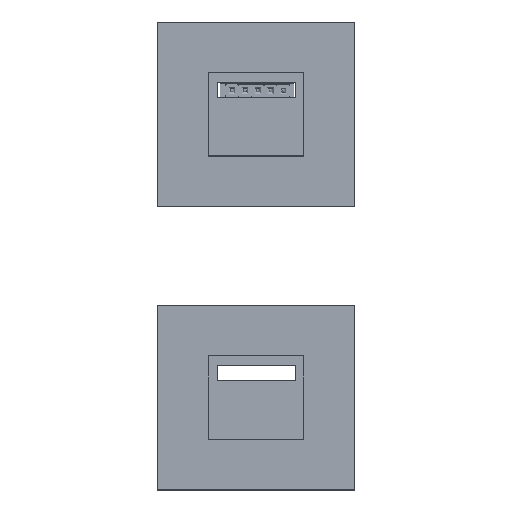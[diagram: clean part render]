
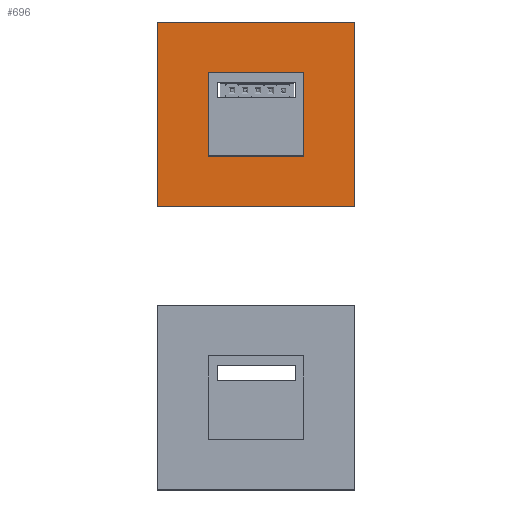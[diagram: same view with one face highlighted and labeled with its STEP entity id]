
A CAD part, top view. The second image highlights one B-rep face of the part: STEP entity #696.
In plain terms, the highlighted planar face has unit normal (0, 0, 1).
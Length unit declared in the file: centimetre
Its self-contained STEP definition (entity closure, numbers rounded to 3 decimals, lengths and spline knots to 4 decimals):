
#84=ORIENTED_EDGE('',*,*,#221,.T.);
#85=ORIENTED_EDGE('',*,*,#243,.T.);
#86=ORIENTED_EDGE('',*,*,#208,.T.);
#87=ORIENTED_EDGE('',*,*,#204,.T.);
#88=ORIENTED_EDGE('',*,*,#244,.F.);
#89=ORIENTED_EDGE('',*,*,#245,.F.);
#90=ORIENTED_EDGE('',*,*,#246,.F.);
#91=ORIENTED_EDGE('',*,*,#247,.F.);
#204=EDGE_CURVE('',#300,#301,#364,.T.);
#208=EDGE_CURVE('',#304,#300,#368,.T.);
#221=EDGE_CURVE('',#301,#315,#381,.T.);
#243=EDGE_CURVE('',#315,#304,#403,.T.);
#244=EDGE_CURVE('',#328,#329,#404,.T.);
#245=EDGE_CURVE('',#330,#328,#405,.T.);
#246=EDGE_CURVE('',#331,#330,#406,.T.);
#247=EDGE_CURVE('',#329,#331,#407,.T.);
#300=VERTEX_POINT('',#1481);
#301=VERTEX_POINT('',#1482);
#304=VERTEX_POINT('',#1490);
#315=VERTEX_POINT('',#1517);
#328=VERTEX_POINT('',#1563);
#329=VERTEX_POINT('',#1564);
#330=VERTEX_POINT('',#1566);
#331=VERTEX_POINT('',#1568);
#364=LINE('',#1480,#460);
#368=LINE('',#1489,#464);
#381=LINE('',#1516,#477);
#403=LINE('',#1558,#499);
#404=LINE('',#1562,#500);
#405=LINE('',#1565,#501);
#406=LINE('',#1567,#502);
#407=LINE('',#1569,#503);
#460=VECTOR('',#1259,100.);
#464=VECTOR('',#1265,100.);
#477=VECTOR('',#1284,100.);
#499=VECTOR('',#1320,100.);
#500=VECTOR('',#1327,100.);
#501=VECTOR('',#1328,100.);
#502=VECTOR('',#1329,100.);
#503=VECTOR('',#1330,100.);
#572=EDGE_LOOP('',(#84,#85,#86,#87));
#573=EDGE_LOOP('',(#88,#89,#90,#91));
#616=FACE_BOUND('',#572,.T.);
#617=FACE_BOUND('',#573,.T.);
#658=PLANE('',#1136);
#696=ADVANCED_FACE('',(#616,#617),#658,.F.);
#1136=AXIS2_PLACEMENT_3D('',#1561,#1325,#1326);
#1259=DIRECTION('',(1.,0.,0.));
#1265=DIRECTION('',(0.,1.,0.));
#1284=DIRECTION('',(0.,-1.,0.));
#1320=DIRECTION('',(-1.,0.,0.));
#1325=DIRECTION('',(0.,0.,-1.));
#1326=DIRECTION('',(0.,1.,0.));
#1327=DIRECTION('',(-1.,0.,0.));
#1328=DIRECTION('',(0.,-1.,0.));
#1329=DIRECTION('',(1.,0.,0.));
#1330=DIRECTION('',(0.,1.,0.));
#1480=CARTESIAN_POINT('',(-3.1423,3.8346,-0.1235));
#1481=CARTESIAN_POINT('',(-4.0885,3.8346,-0.1235));
#1482=CARTESIAN_POINT('',(-2.1961,3.8346,-0.1235));
#1489=CARTESIAN_POINT('',(-4.0885,3.0128,-0.1235));
#1490=CARTESIAN_POINT('',(-4.0885,2.1911,-0.1235));
#1516=CARTESIAN_POINT('',(-2.1961,3.0128,-0.1235));
#1517=CARTESIAN_POINT('',(-2.1961,2.1911,-0.1235));
#1558=CARTESIAN_POINT('',(-3.1423,2.1911,-0.1235));
#1561=CARTESIAN_POINT('',(-3.1423,1.1911,-0.1235));
#1562=CARTESIAN_POINT('',(-3.1423,1.1911,-0.1235));
#1563=CARTESIAN_POINT('',(-1.1961,1.1911,-0.1235));
#1564=CARTESIAN_POINT('',(-5.0885,1.1911,-0.1235));
#1565=CARTESIAN_POINT('',(-1.1961,3.0128,-0.1235));
#1566=CARTESIAN_POINT('',(-1.1961,4.8346,-0.1235));
#1567=CARTESIAN_POINT('',(-3.1423,4.8346,-0.1235));
#1568=CARTESIAN_POINT('',(-5.0885,4.8346,-0.1235));
#1569=CARTESIAN_POINT('',(-5.0885,3.0128,-0.1235));
